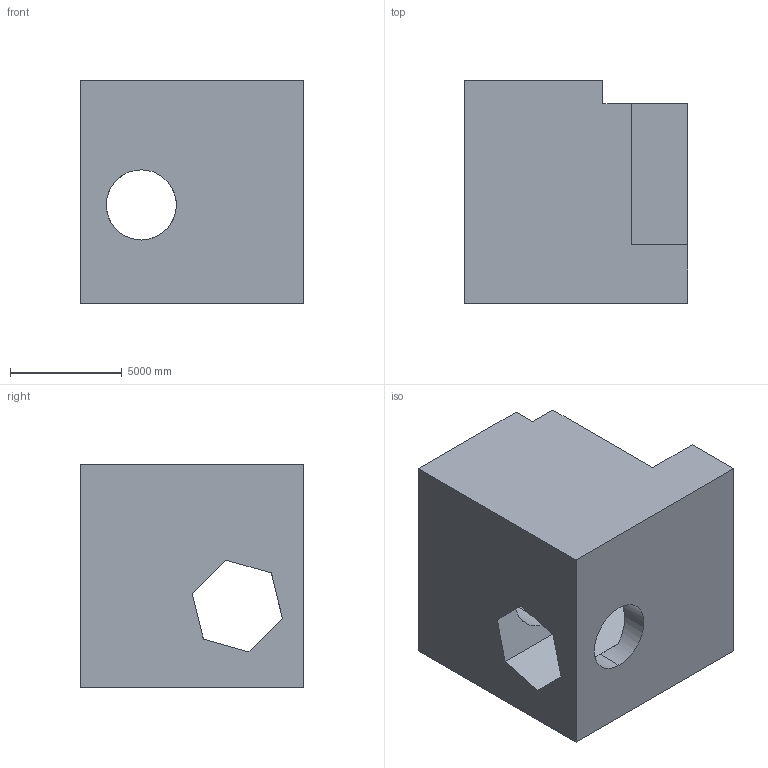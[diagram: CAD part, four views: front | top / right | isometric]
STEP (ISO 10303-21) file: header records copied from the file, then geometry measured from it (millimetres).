
FILE_DESCRIPTION (( 'STEP AP203' ), '1' );
FILE_NAME ('323.STEP', '2022-07-28T14:20:27', ( 'user' ), ( '' ), 'SwSTEP 2.0', 'SolidWorks 2021', '' );
FILE_SCHEMA (( 'CONFIG_CONTROL_DESIGN' ));
Length unit declared in the file: centimetre
Products named in the file (1): 323
Bounding box: 10000 x 10000 x 10000 mm (x, y, z)
Volume: 722523474446 mm3; surface area: 733646810.8 mm2
Topology: 1 solids, 1 shells, 22 faces, 66 edges, 44 vertices
Faces by surface type: plane 20, cylinder 2
Entity records: 823 total; most frequent: CARTESIAN_POINT 163, ORIENTED_EDGE 132, DIRECTION 106, EDGE_CURVE 66, VECTOR 52, LINE 52, VERTEX_POINT 44, AXIS2_PLACEMENT_3D 27
